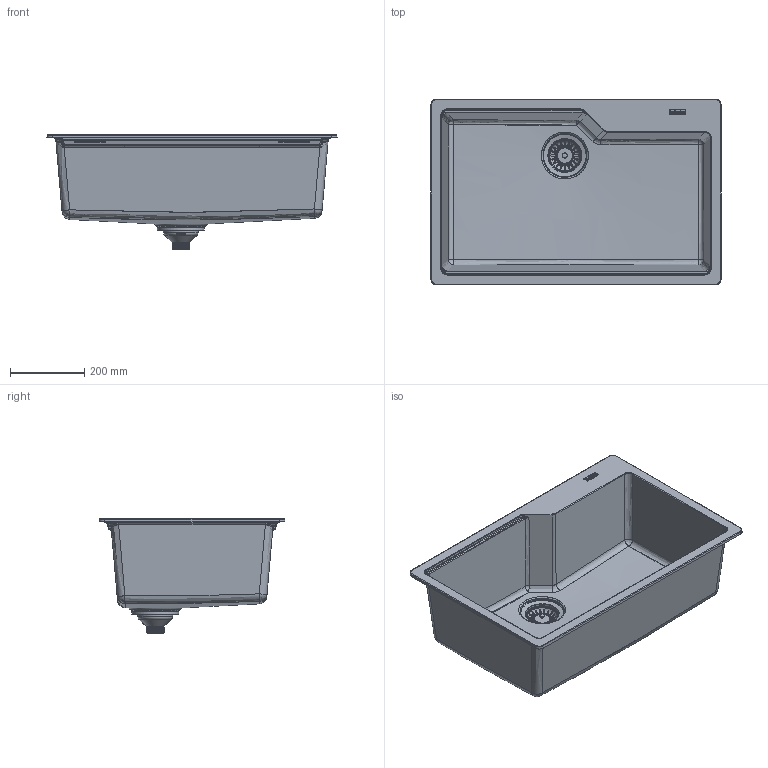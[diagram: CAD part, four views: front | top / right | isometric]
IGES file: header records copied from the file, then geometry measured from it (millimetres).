
Global section: file name: F:\_CONVERSIONE_CAD_2024_2025\_2024\03_3D kits new\Sinks\URBAN\114.0712.643 3D001_Sinks_Urban_UBG-610-72\3D001_Sinks_Urban_UBG-610-72.igs; native system: Rhinoceros ( May 17 2024 ); preprocessor: Trout Lake IGES 012 May 17 2024; date: 240701.085738; units: millimetre
Bounding box: 780 x 500 x 307.16 mm (x, y, z)
Surface area: 1693663.4 mm2 (no closed solid volume)
Topology: 0 solids, 0 shells, 969 faces, 6532 edges, 6468 vertices
Faces by surface type: bspline 969
